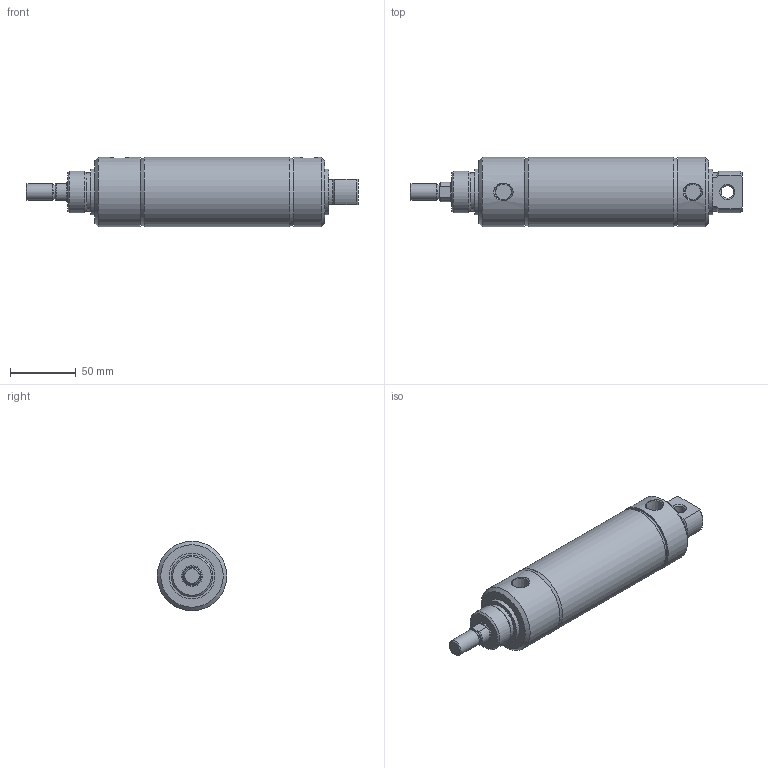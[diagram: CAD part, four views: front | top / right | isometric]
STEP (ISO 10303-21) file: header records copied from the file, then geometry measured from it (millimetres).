
FILE_DESCRIPTION( ( 'STEP AP214' ), '1' );
FILE_NAME( 'p:/temp/worker_474/temp/exporttempdir_78228_254_DZnNN/format_0/2000D02-03A-03.stp', '2020-05-07T19:18:36', ( 'License CC BY-ND 4.0' ), ( 'CADENAS' ), ' ', 'PARTsolutions', ' ' );
FILE_SCHEMA( ( 'AUTOMOTIVE_DESIGN { 1 0 10303 214 1 1 1 1 }' ) );
Length unit declared in the file: inch
Products named in the file (3): 2000D02-03A-03; _2000D02-03A-0300A00A0b; _2000D02-03A-0300A00A0r
Assembly tree (2 placements, depth 2):
  2000D02-03A-03
    _2000D02-03A-0300A00A0b
    _2000D02-03A-0300A00A0r
Bounding box: 252.43 x 52.78 x 52.78 mm (x, y, z)
Volume: 269379.8 mm3; surface area: 81395.2 mm2
Topology: 2 solids, 2 shells, 65 faces, 127 edges, 79 vertices
Faces by surface type: plane 23, cone 21, cylinder 21
Full cylindrical faces by diameter (mm): 9.525 x1, 11.189 x1, 12.7 x1, 15.875 x3, 29.23 x1, 31.75 x1, 34.925 x2, 50.8 x2, 52.578 x1, 52.781 x2
Entity records: 2254 total; most frequent: CARTESIAN_POINT 454, DIRECTION 276, ORIENTED_EDGE 188, AXIS2_PLACEMENT_3D 128, EDGE_LOOP 110, EDGE_CURVE 94, FACE_OUTER_BOUND 80, VERTEX_POINT 76
